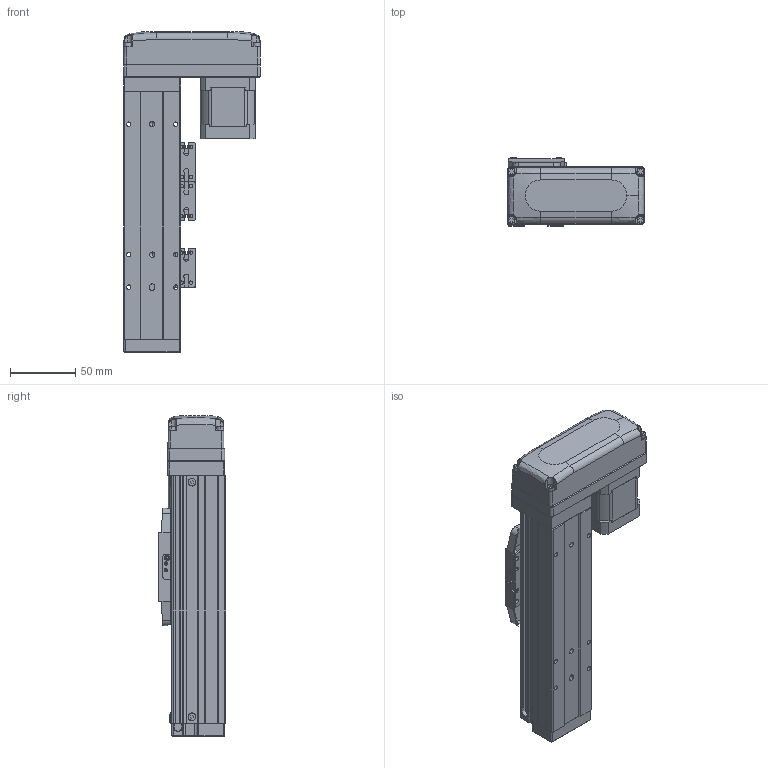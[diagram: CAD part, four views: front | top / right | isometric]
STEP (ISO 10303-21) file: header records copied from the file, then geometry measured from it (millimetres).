
FILE_DESCRIPTION (( 'STEP AP203' ), '1' );
FILE_NAME ('GTH4-50-BL-B42-C4.step', '2023-02-14T00:18:56', ( '微软用户' ), ( '微软中国' ), 'SwSTEP 2.0', 'SolidWorks 2020', '' );
FILE_SCHEMA (( 'CONFIG_CONTROL_DESIGN' ));
Length unit declared in the file: millimetre
Products named in the file (19): BTH40-022; 42CM06; GBT70.1-2000 M3×16; GBT 70.1-M2.5×6; GTH4-50-BL-B42-C4; BTH50-028; BTH40-004; BTH50-023; BTH40-013; BTH40-001-50_BTH40-001-50; BTH50-024; GBT 70.3-M3℅6; BTH40-003; GBT 70.1-M3℅6; BTH40-027-1; BTH40-006; GBT96.1-2002 3×0.8; BTH50-026; BTH-M3X5X6
Assembly tree (47 placements, depth 2):
  GTH4-50-BL-B42-C4
    BTH40-001-50_BTH40-001-50
    BTH40-003
    BTH40-006
    BTH-M3X5X6  x8
    GBT70.1-2000 M3×16  x4
    BTH50-028  x2
    BTH50-023  x3
    BTH50-024  x3
    GBT 70.1-M3℅6  x6
    GBT96.1-2002 3×0.8  x6
    BTH40-022
    GBT 70.1-M2.5×6  x2
    BTH40-004
    BTH40-013
    GBT 70.3-M3℅6  x4
    BTH40-027-1
    BTH50-026
    42CM06
Bounding box: 105 x 52 x 246 mm (x, y, z)
Volume: 561385.9 mm3; surface area: 148456.8 mm2
Topology: 56 solids, 56 shells, 3303 faces, 7696 edges, 4602 vertices
Faces by surface type: cone 1488, plane 1076, cylinder 561, torus 124, bspline 42, sphere 12
Entity records: 76946 total; most frequent: CARTESIAN_POINT 13889, DIRECTION 13661, ORIENTED_EDGE 12038, EDGE_CURVE 6019, AXIS2_PLACEMENT_3D 5237, VERTEX_POINT 3589, LINE 3187, VECTOR 3187
